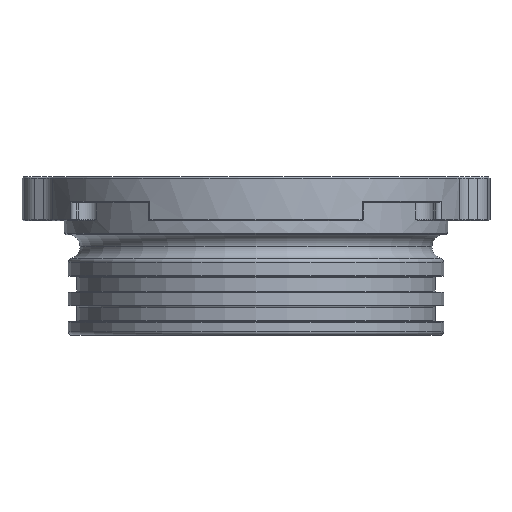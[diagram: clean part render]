
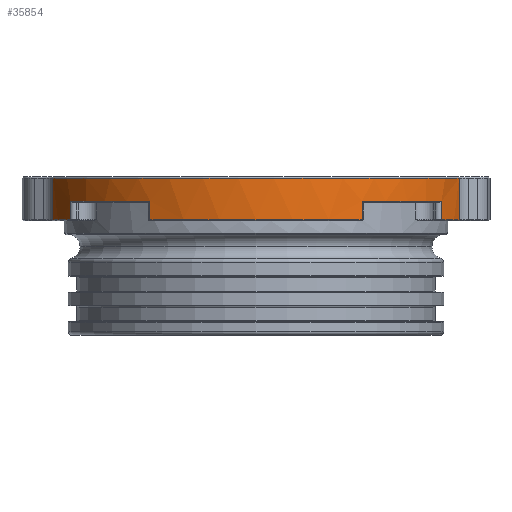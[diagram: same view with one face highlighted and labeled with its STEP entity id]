
A CAD part, front view. The second image highlights one B-rep face of the part: STEP entity #35854.
In plain terms, the highlighted cylindrical face has radius 29 mm (diameter 58 mm), a partial arc.
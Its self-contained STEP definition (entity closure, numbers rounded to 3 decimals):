
#314 = VECTOR ( 'NONE', #9885, 1000. ) ;
#782 = VERTEX_POINT ( 'NONE', #4817 ) ;
#994 = CYLINDRICAL_SURFACE ( 'NONE', #21382, 29. ) ;
#1160 = DIRECTION ( 'NONE',  ( 0., 0., -1. ) ) ;
#1162 = DIRECTION ( 'NONE',  ( 0., 0., 1. ) ) ;
#1386 = LINE ( 'NONE', #23837, #1607 ) ;
#1421 = AXIS2_PLACEMENT_3D ( 'NONE', #26901, #33108, #16309 ) ;
#1495 = LINE ( 'NONE', #23761, #314 ) ;
#1527 = DIRECTION ( 'NONE',  ( -1., 0., 0. ) ) ;
#1529 = FACE_OUTER_BOUND ( 'NONE', #10745, .T. ) ;
#1607 = VECTOR ( 'NONE', #35154, 1000. ) ;
#3730 = DIRECTION ( 'NONE',  ( 1., 0., 0. ) ) ;
#4817 = CARTESIAN_POINT ( 'NONE',  ( 25.18, -14.387, 18.2 ) ) ;
#5238 = CARTESIAN_POINT ( 'NONE',  ( 0., 0., 18.2 ) ) ;
#5403 = DIRECTION ( 'NONE',  ( 1., 0., 0. ) ) ;
#6076 = EDGE_CURVE ( 'NONE', #26083, #14894, #11367, .T. ) ;
#6449 = CARTESIAN_POINT ( 'NONE',  ( 0., 0., 0. ) ) ;
#6607 = EDGE_CURVE ( 'NONE', #13261, #17811, #28833, .T. ) ;
#6709 = VECTOR ( 'NONE', #33935, 1000. ) ;
#9885 = DIRECTION ( 'NONE',  ( 0., 0., 1. ) ) ;
#9929 = CARTESIAN_POINT ( 'NONE',  ( -25.18, -14.387, 18.2 ) ) ;
#10220 = CIRCLE ( 'NONE', #23600, 29. ) ;
#10268 = ORIENTED_EDGE ( 'NONE', *, *, #6076, .T. ) ;
#10745 = EDGE_LOOP ( 'NONE', ( #28827, #10268, #11463, #19554, #12244, #23799, #19770, #22868, #23915, #22331, #17571, #15020 ) ) ;
#10858 = CARTESIAN_POINT ( 'NONE',  ( -27.555, -9.039, 21.3 ) ) ;
#10982 = AXIS2_PLACEMENT_3D ( 'NONE', #19267, #30405, #5403 ) ;
#11180 = CARTESIAN_POINT ( 'NONE',  ( 27.555, -9.039, 21.3 ) ) ;
#11367 = CIRCLE ( 'NONE', #1421, 29. ) ;
#11456 = LINE ( 'NONE', #33170, #17490 ) ;
#11463 = ORIENTED_EDGE ( 'NONE', *, *, #34282, .T. ) ;
#12244 = ORIENTED_EDGE ( 'NONE', *, *, #24598, .T. ) ;
#12421 = CARTESIAN_POINT ( 'NONE',  ( -14.387, -25.18, 15.7 ) ) ;
#12586 = CIRCLE ( 'NONE', #17242, 29. ) ;
#13116 = AXIS2_PLACEMENT_3D ( 'NONE', #5238, #19632, #13292 ) ;
#13261 = VERTEX_POINT ( 'NONE', #9929 ) ;
#13292 = DIRECTION ( 'NONE',  ( -1., 0., 0. ) ) ;
#13410 = VERTEX_POINT ( 'NONE', #24166 ) ;
#13825 = EDGE_CURVE ( 'NONE', #13410, #19417, #1495, .T. ) ;
#14894 = VERTEX_POINT ( 'NONE', #16052 ) ;
#15020 = ORIENTED_EDGE ( 'NONE', *, *, #33171, .T. ) ;
#15713 = VERTEX_POINT ( 'NONE', #12421 ) ;
#15870 = CARTESIAN_POINT ( 'NONE',  ( 25.18, -14.387, 15.7 ) ) ;
#16052 = CARTESIAN_POINT ( 'NONE',  ( -25.18, -14.387, 15.7 ) ) ;
#16309 = DIRECTION ( 'NONE',  ( 1., 0., 0. ) ) ;
#17242 = AXIS2_PLACEMENT_3D ( 'NONE', #24530, #21790, #32927 ) ;
#17446 = EDGE_CURVE ( 'NONE', #19417, #782, #12586, .T. ) ;
#17490 = VECTOR ( 'NONE', #24962, 1000. ) ;
#17571 = ORIENTED_EDGE ( 'NONE', *, *, #26561, .T. ) ;
#17811 = VERTEX_POINT ( 'NONE', #24665 ) ;
#19267 = CARTESIAN_POINT ( 'NONE',  ( 0., 0., 15.7 ) ) ;
#19393 = DIRECTION ( 'NONE',  ( 0., 0., -1. ) ) ;
#19417 = VERTEX_POINT ( 'NONE', #21130 ) ;
#19554 = ORIENTED_EDGE ( 'NONE', *, *, #6607, .T. ) ;
#19632 = DIRECTION ( 'NONE',  ( 0., 0., 1. ) ) ;
#19770 = ORIENTED_EDGE ( 'NONE', *, *, #13825, .T. ) ;
#19901 = VERTEX_POINT ( 'NONE', #21378 ) ;
#20323 = CARTESIAN_POINT ( 'NONE',  ( 0., 0., 21.3 ) ) ;
#20421 = EDGE_CURVE ( 'NONE', #782, #28042, #1386, .T. ) ;
#21130 = CARTESIAN_POINT ( 'NONE',  ( 14.387, -25.18, 18.2 ) ) ;
#21161 = EDGE_CURVE ( 'NONE', #28042, #19901, #32544, .T. ) ;
#21378 = CARTESIAN_POINT ( 'NONE',  ( 27.555, -9.039, 15.7 ) ) ;
#21382 = AXIS2_PLACEMENT_3D ( 'NONE', #6449, #1162, #3730 ) ;
#21694 = VERTEX_POINT ( 'NONE', #10858 ) ;
#21790 = DIRECTION ( 'NONE',  ( 0., 0., 1. ) ) ;
#22331 = ORIENTED_EDGE ( 'NONE', *, *, #21161, .T. ) ;
#22868 = ORIENTED_EDGE ( 'NONE', *, *, #17446, .T. ) ;
#23520 = LINE ( 'NONE', #34658, #31455 ) ;
#23600 = AXIS2_PLACEMENT_3D ( 'NONE', #20323, #1160, #1527 ) ;
#23761 = CARTESIAN_POINT ( 'NONE',  ( 14.387, -25.18, 0. ) ) ;
#23767 = EDGE_CURVE ( 'NONE', #21694, #26083, #23520, .T. ) ;
#23799 = ORIENTED_EDGE ( 'NONE', *, *, #27969, .T. ) ;
#23837 = CARTESIAN_POINT ( 'NONE',  ( 25.18, -14.387, 0. ) ) ;
#23914 = CARTESIAN_POINT ( 'NONE',  ( 0., 0., 15.7 ) ) ;
#23915 = ORIENTED_EDGE ( 'NONE', *, *, #20421, .T. ) ;
#24166 = CARTESIAN_POINT ( 'NONE',  ( 14.387, -25.18, 15.7 ) ) ;
#24446 = DIRECTION ( 'NONE',  ( 0., 0., -1. ) ) ;
#24530 = CARTESIAN_POINT ( 'NONE',  ( 0., 0., 18.2 ) ) ;
#24598 = EDGE_CURVE ( 'NONE', #17811, #15713, #29550, .T. ) ;
#24665 = CARTESIAN_POINT ( 'NONE',  ( -14.387, -25.18, 18.2 ) ) ;
#24962 = DIRECTION ( 'NONE',  ( 0., 0., 1. ) ) ;
#26083 = VERTEX_POINT ( 'NONE', #30650 ) ;
#26561 = EDGE_CURVE ( 'NONE', #19901, #27716, #11456, .T. ) ;
#26872 = CIRCLE ( 'NONE', #30377, 29. ) ;
#26901 = CARTESIAN_POINT ( 'NONE',  ( 0., 0., 15.7 ) ) ;
#27202 = DIRECTION ( 'NONE',  ( 0., 0., 1. ) ) ;
#27716 = VERTEX_POINT ( 'NONE', #11180 ) ;
#27969 = EDGE_CURVE ( 'NONE', #15713, #13410, #26872, .T. ) ;
#28042 = VERTEX_POINT ( 'NONE', #15870 ) ;
#28827 = ORIENTED_EDGE ( 'NONE', *, *, #23767, .T. ) ;
#28833 = CIRCLE ( 'NONE', #13116, 29. ) ;
#29182 = LINE ( 'NONE', #34122, #6709 ) ;
#29368 = CARTESIAN_POINT ( 'NONE',  ( -14.387, -25.18, 0. ) ) ;
#29550 = LINE ( 'NONE', #29368, #34990 ) ;
#30377 = AXIS2_PLACEMENT_3D ( 'NONE', #23914, #27202, #32678 ) ;
#30405 = DIRECTION ( 'NONE',  ( 0., 0., 1. ) ) ;
#30650 = CARTESIAN_POINT ( 'NONE',  ( -27.555, -9.039, 15.7 ) ) ;
#31455 = VECTOR ( 'NONE', #19393, 1000. ) ;
#32544 = CIRCLE ( 'NONE', #10982, 29. ) ;
#32678 = DIRECTION ( 'NONE',  ( 1., 0., 0. ) ) ;
#32927 = DIRECTION ( 'NONE',  ( -1., 0., 0. ) ) ;
#33108 = DIRECTION ( 'NONE',  ( 0., 0., 1. ) ) ;
#33170 = CARTESIAN_POINT ( 'NONE',  ( 27.555, -9.039, 0. ) ) ;
#33171 = EDGE_CURVE ( 'NONE', #27716, #21694, #10220, .T. ) ;
#33935 = DIRECTION ( 'NONE',  ( 0., 0., 1. ) ) ;
#34122 = CARTESIAN_POINT ( 'NONE',  ( -25.18, -14.387, 0. ) ) ;
#34282 = EDGE_CURVE ( 'NONE', #14894, #13261, #29182, .T. ) ;
#34658 = CARTESIAN_POINT ( 'NONE',  ( -27.555, -9.039, 0. ) ) ;
#34990 = VECTOR ( 'NONE', #24446, 1000. ) ;
#35154 = DIRECTION ( 'NONE',  ( 0., 0., -1. ) ) ;
#35854 = ADVANCED_FACE ( 'NONE', ( #1529 ), #994, .T. ) ;
